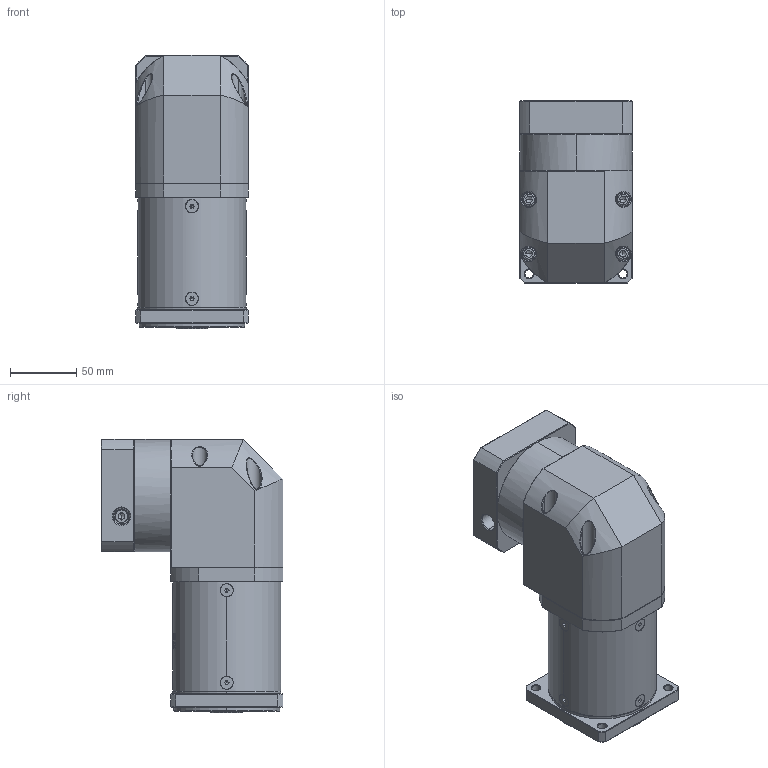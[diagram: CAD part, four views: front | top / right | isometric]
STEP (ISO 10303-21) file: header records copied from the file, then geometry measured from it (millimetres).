
FILE_DESCRIPTION (( 'STEP AP214' ), '1' );
FILE_NAME ('ZFR080-K15-L3-P2-14-73-69.6X69.6-M6.step', '2023-08-25T03:57:58', ( '' ), ( '' ), 'SwSTEP 2.0', 'SolidWorks 2016', '' );
FILE_SCHEMA (( 'AUTOMOTIVE_DESIGN' ));
Length unit declared in the file: millimetre
Products named in the file (1): ZFR080-K15-L3-P2-14-73-69.6X69.6-M6
Bounding box: 85 x 137.6 x 206.5 mm (x, y, z)
Volume: 1441527.3 mm3; surface area: 143912.5 mm2
Topology: 13 solids, 13 shells, 2407 faces, 6200 edges, 3898 vertices
Faces by surface type: plane 1189, cylinder 419, bspline 414, cone 353, torus 32
Entity records: 124716 total; most frequent: CARTESIAN_POINT 44840, ORIENTED_EDGE 12312, DIRECTION 9368, EDGE_CURVE 6156, VERTEX_POINT 3898, VECTOR 3340, LINE 3340, AXIS2_PLACEMENT_3D 3014
